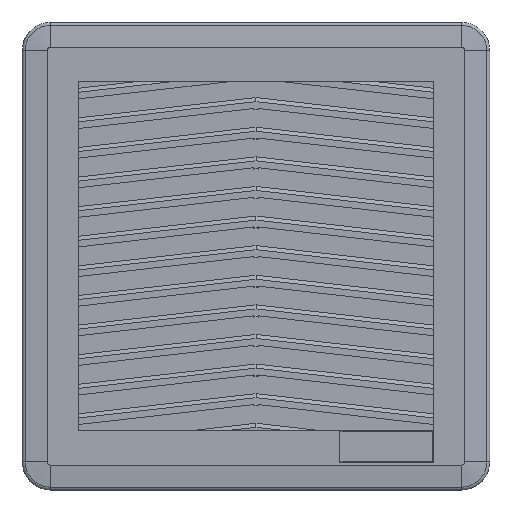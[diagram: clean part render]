
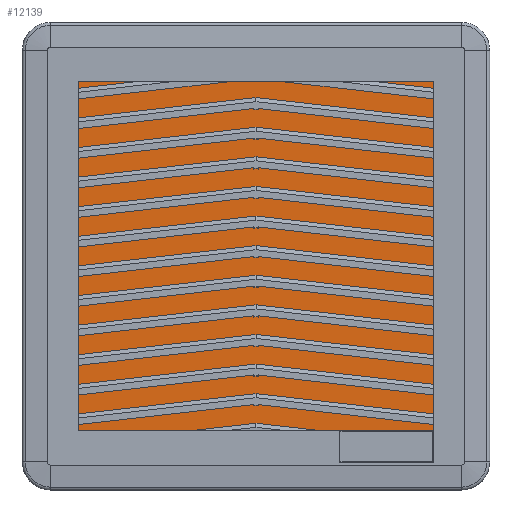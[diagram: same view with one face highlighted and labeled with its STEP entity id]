
A CAD part, top view. The second image highlights one B-rep face of the part: STEP entity #12139.
In plain terms, the highlighted planar face has unit normal (0, 0, 1).
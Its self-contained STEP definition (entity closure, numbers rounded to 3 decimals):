
#233 = LINE ( 'NONE', #21274, #27669 ) ;
#705 = ORIENTED_EDGE ( 'NONE', *, *, #17794, .F. ) ;
#1620 = VERTEX_POINT ( 'NONE', #28026 ) ;
#3230 = EDGE_LOOP ( 'NONE', ( #25170, #7600, #705, #26780, #30929, #19627, #5412, #4141 ) ) ;
#3691 = CARTESIAN_POINT ( 'NONE',  ( 67.1, 72.9, 27.2 ) ) ;
#3842 = CIRCLE ( 'NONE', #25863, 7. ) ;
#4079 = CARTESIAN_POINT ( 'NONE',  ( 74.1, -65.9, 27.2 ) ) ;
#4141 = ORIENTED_EDGE ( 'NONE', *, *, #26428, .T. ) ;
#4940 = DIRECTION ( 'NONE',  ( 0., -1., 0. ) ) ;
#4978 = PLANE ( 'NONE',  #24252 ) ;
#5325 = DIRECTION ( 'NONE',  ( 1., 0., 0. ) ) ;
#5412 = ORIENTED_EDGE ( 'NONE', *, *, #23390, .F. ) ;
#5885 = DIRECTION ( 'NONE',  ( -1., 0., 0. ) ) ;
#6154 = DIRECTION ( 'NONE',  ( 0., 1., 0. ) ) ;
#6499 = VERTEX_POINT ( 'NONE', #20937 ) ;
#7588 = EDGE_CURVE ( 'NONE', #18179, #28099, #33929, .T. ) ;
#7600 = ORIENTED_EDGE ( 'NONE', *, *, #7588, .T. ) ;
#8120 = CARTESIAN_POINT ( 'NONE',  ( -73.8, 72.9, 27.2 ) ) ;
#8809 = VERTEX_POINT ( 'NONE', #21268 ) ;
#8846 = CARTESIAN_POINT ( 'NONE',  ( 67.1, -65.9, 27.2 ) ) ;
#10070 = AXIS2_PLACEMENT_3D ( 'NONE', #22441, #17139, #30692 ) ;
#10616 = CARTESIAN_POINT ( 'NONE',  ( -67.832, 71.763, 27.2 ) ) ;
#12139 = ADVANCED_FACE ( 'NONE', ( #13298 ), #4978, .F. ) ;
#12145 = EDGE_CURVE ( 'NONE', #18179, #24271, #18769, .T. ) ;
#13298 = FACE_OUTER_BOUND ( 'NONE', #3230, .T. ) ;
#13397 = VECTOR ( 'NONE', #4940, 1000. ) ;
#13694 = VERTEX_POINT ( 'NONE', #4079 ) ;
#14773 = DIRECTION ( 'NONE',  ( 0., 0., 1. ) ) ;
#15203 = EDGE_CURVE ( 'NONE', #1620, #8809, #233, .T. ) ;
#15294 = DIRECTION ( 'NONE',  ( -1., 0., 0. ) ) ;
#15743 = CARTESIAN_POINT ( 'NONE',  ( 74.1, 72.9, 27.2 ) ) ;
#16776 = LINE ( 'NONE', #8120, #18127 ) ;
#17139 = DIRECTION ( 'NONE',  ( 0., 0., 1. ) ) ;
#17724 = AXIS2_PLACEMENT_3D ( 'NONE', #8846, #19286, #30363 ) ;
#17794 = EDGE_CURVE ( 'NONE', #32582, #28099, #16776, .T. ) ;
#18127 = VECTOR ( 'NONE', #6154, 1000. ) ;
#18179 = VERTEX_POINT ( 'NONE', #31549 ) ;
#18769 = LINE ( 'NONE', #15743, #33262 ) ;
#19286 = DIRECTION ( 'NONE',  ( 0., 0., 1. ) ) ;
#19547 = CARTESIAN_POINT ( 'NONE',  ( -73.8, 65.9, 27.2 ) ) ;
#19627 = ORIENTED_EDGE ( 'NONE', *, *, #31332, .T. ) ;
#20437 = AXIS2_PLACEMENT_3D ( 'NONE', #23072, #14773, #15294 ) ;
#20668 = DIRECTION ( 'NONE',  ( -1., 0., 0. ) ) ;
#20836 = DIRECTION ( 'NONE',  ( 0., 0., 1. ) ) ;
#20937 = CARTESIAN_POINT ( 'NONE',  ( 74.1, 65.9, 27.2 ) ) ;
#21268 = CARTESIAN_POINT ( 'NONE',  ( -66.8, -72.9, 27.2 ) ) ;
#21274 = CARTESIAN_POINT ( 'NONE',  ( 74.1, -72.9, 27.2 ) ) ;
#21417 = DIRECTION ( 'NONE',  ( 1., 0., 0. ) ) ;
#21945 = CIRCLE ( 'NONE', #10070, 7. ) ;
#22441 = CARTESIAN_POINT ( 'NONE',  ( -66.8, -65.9, 27.2 ) ) ;
#23072 = CARTESIAN_POINT ( 'NONE',  ( -66.8, 65.9, 27.2 ) ) ;
#23390 = EDGE_CURVE ( 'NONE', #6499, #13694, #34246, .T. ) ;
#23637 = CARTESIAN_POINT ( 'NONE',  ( 67.1, 65.9, 27.2 ) ) ;
#24252 = AXIS2_PLACEMENT_3D ( 'NONE', #10616, #34285, #21417 ) ;
#24271 = VERTEX_POINT ( 'NONE', #3691 ) ;
#25170 = ORIENTED_EDGE ( 'NONE', *, *, #12145, .F. ) ;
#25863 = AXIS2_PLACEMENT_3D ( 'NONE', #23637, #20836, #20668 ) ;
#26428 = EDGE_CURVE ( 'NONE', #6499, #24271, #3842, .T. ) ;
#26780 = ORIENTED_EDGE ( 'NONE', *, *, #27278, .T. ) ;
#27278 = EDGE_CURVE ( 'NONE', #32582, #8809, #21945, .T. ) ;
#27669 = VECTOR ( 'NONE', #5885, 1000. ) ;
#28026 = CARTESIAN_POINT ( 'NONE',  ( 67.1, -72.9, 27.2 ) ) ;
#28099 = VERTEX_POINT ( 'NONE', #19547 ) ;
#30363 = DIRECTION ( 'NONE',  ( -1., 0., 0. ) ) ;
#30692 = DIRECTION ( 'NONE',  ( -1., 0., 0. ) ) ;
#30929 = ORIENTED_EDGE ( 'NONE', *, *, #15203, .F. ) ;
#31332 = EDGE_CURVE ( 'NONE', #1620, #13694, #34621, .T. ) ;
#31549 = CARTESIAN_POINT ( 'NONE',  ( -66.8, 72.9, 27.2 ) ) ;
#31759 = CARTESIAN_POINT ( 'NONE',  ( 74.1, -72.9, 27.2 ) ) ;
#32582 = VERTEX_POINT ( 'NONE', #33771 ) ;
#33262 = VECTOR ( 'NONE', #5325, 1000. ) ;
#33771 = CARTESIAN_POINT ( 'NONE',  ( -73.8, -65.9, 27.2 ) ) ;
#33929 = CIRCLE ( 'NONE', #20437, 7. ) ;
#34246 = LINE ( 'NONE', #31759, #13397 ) ;
#34285 = DIRECTION ( 'NONE',  ( 0., 0., -1. ) ) ;
#34621 = CIRCLE ( 'NONE', #17724, 7. ) ;
